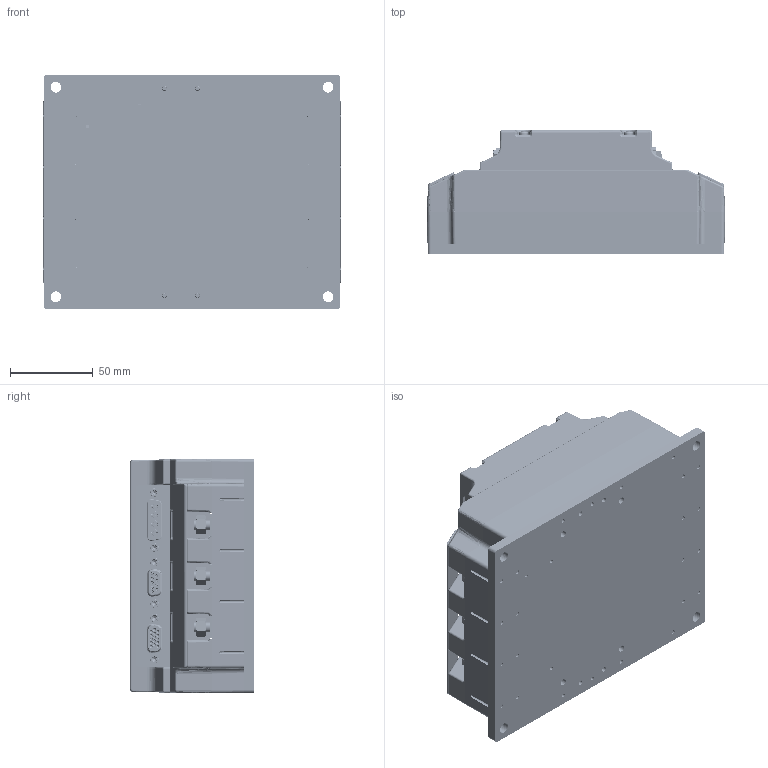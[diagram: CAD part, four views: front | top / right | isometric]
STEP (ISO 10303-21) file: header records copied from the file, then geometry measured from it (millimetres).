
FILE_DESCRIPTION (( 'STEP AP203' ), '1' );
FILE_NAME ('gold-drum-hv-EMPTY.STEP', '2012-07-19T06:07:30', ( 'YAEL' ), ( 'Microsoft' ), 'SwSTEP 2.0', 'SolidWorks 2012', '' );
FILE_SCHEMA (( 'CONFIG_CONTROL_DESIGN' ));
Products named in the file (1): gold-drum-hv-EMPTY
Bounding box: 180.34 x 75.2 x 142.34 mm (x, y, z)
Volume: 387139.2 mm3; surface area: 289977.8 mm2
Topology: 97 solids, 97 shells, 9416 faces, 24435 edges, 15414 vertices
Faces by surface type: plane 4944, cylinder 2409, bspline 1101, cone 597, torus 257, sphere 108
Entity records: 319060 total; most frequent: CARTESIAN_POINT 98406, ORIENTED_EDGE 48502, DIRECTION 42158, EDGE_CURVE 24251, VERTEX_POINT 15394, VECTOR 15254, LINE 15254, AXIS2_PLACEMENT_3D 13452
